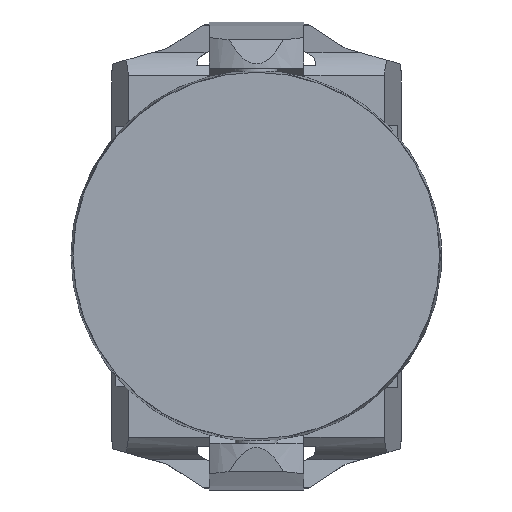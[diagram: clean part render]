
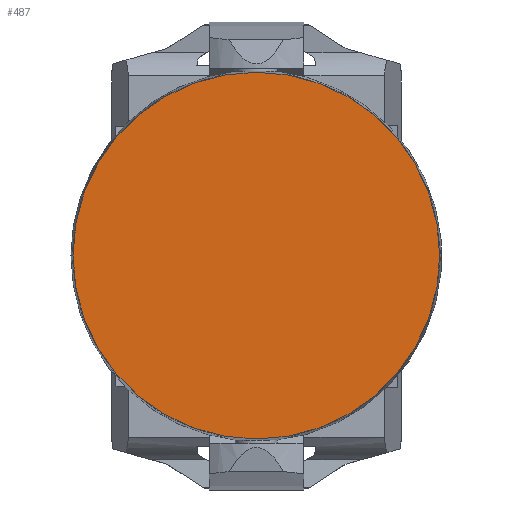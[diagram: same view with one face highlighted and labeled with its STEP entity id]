
A CAD part, top view. The second image highlights one B-rep face of the part: STEP entity #487.
In plain terms, the highlighted planar face has unit normal (0, 0, 1) as drawn and (-0.866, 0, 0.5) by its records, which use the part's own axes.
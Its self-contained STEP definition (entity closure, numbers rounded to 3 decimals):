
#487 = ADVANCED_FACE( '', ( #992 ), #993, .T. );
#992 = FACE_OUTER_BOUND( '', #1558, .T. );
#993 = PLANE( '', #1559 );
#1558 = EDGE_LOOP( '', ( #2612 ) );
#1559 = AXIS2_PLACEMENT_3D( '', #2613, #2614, #2615 );
#2612 = ORIENTED_EDGE( '', *, *, #3621, .F. );
#2613 = CARTESIAN_POINT( '', ( -146.263, 0., 261.665 ) );
#2614 = DIRECTION( '', ( -0.866, 0., 0.5 ) );
#2615 = DIRECTION( '', ( 0.5, 0., 0.866 ) );
#3621 = EDGE_CURVE( '', #4389, #4389, #4390, .T. );
#4389 = VERTEX_POINT( '', #5622 );
#4390 = CIRCLE( '', #5623, 173.014 );
#5622 = CARTESIAN_POINT( '', ( -146.263, 0., 261.665 ) );
#5623 = AXIS2_PLACEMENT_3D( '', #6410, #6411, #6412 );
#6410 = CARTESIAN_POINT( '', ( -59.756, 0., 411.5 ) );
#6411 = DIRECTION( '', ( 0.866, 0., -0.5 ) );
#6412 = DIRECTION( '', ( -0.5, 0., -0.866 ) );
